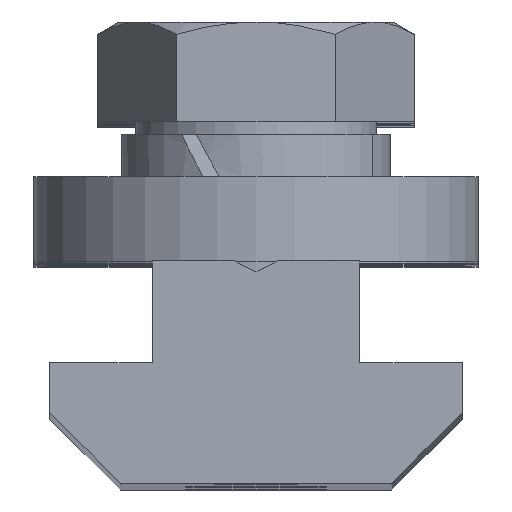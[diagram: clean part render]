
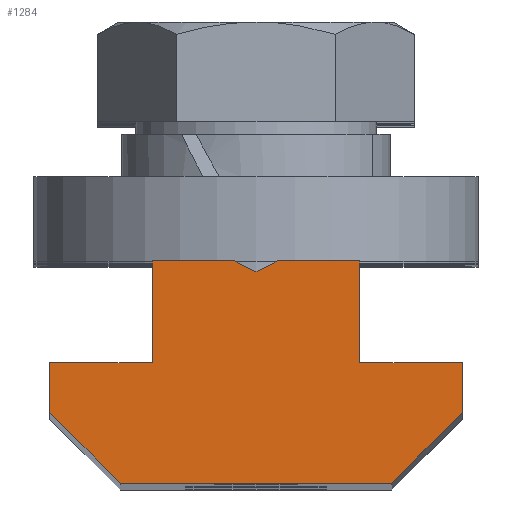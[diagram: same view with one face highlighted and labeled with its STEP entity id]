
A CAD part, top view. The second image highlights one B-rep face of the part: STEP entity #1284.
In plain terms, the highlighted planar face has unit normal (0, 0, 1) as drawn and (0, 0, -1) by its records, which use the part's own axes.
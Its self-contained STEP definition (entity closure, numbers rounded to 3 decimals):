
#312=PLANE('',#1466);
#355=FACE_OUTER_BOUND('',#415,.T.);
#415=EDGE_LOOP('',(#1034,#1035,#1036,#1037,#1038,#1039,#1040,#1041,#1042,
#1043,#1044,#1045,#1046));
#480=LINE('',#2106,#560);
#492=LINE('',#2130,#572);
#493=LINE('',#2132,#573);
#494=LINE('',#2134,#574);
#495=LINE('',#2136,#575);
#496=LINE('',#2138,#576);
#497=LINE('',#2140,#577);
#498=LINE('',#2142,#578);
#499=LINE('',#2144,#579);
#500=LINE('',#2146,#580);
#501=LINE('',#2148,#581);
#502=LINE('',#2150,#582);
#503=LINE('',#2151,#583);
#560=VECTOR('',#1681,10.);
#572=VECTOR('',#1711,10.);
#573=VECTOR('',#1712,10.);
#574=VECTOR('',#1713,10.);
#575=VECTOR('',#1714,10.);
#576=VECTOR('',#1715,10.);
#577=VECTOR('',#1716,10.);
#578=VECTOR('',#1717,10.);
#579=VECTOR('',#1718,10.);
#580=VECTOR('',#1719,10.);
#581=VECTOR('',#1720,10.);
#582=VECTOR('',#1721,10.);
#583=VECTOR('',#1722,10.);
#730=VERTEX_POINT('',#2103);
#731=VERTEX_POINT('',#2105);
#734=VERTEX_POINT('',#2129);
#735=VERTEX_POINT('',#2131);
#736=VERTEX_POINT('',#2133);
#737=VERTEX_POINT('',#2135);
#738=VERTEX_POINT('',#2137);
#739=VERTEX_POINT('',#2139);
#740=VERTEX_POINT('',#2141);
#741=VERTEX_POINT('',#2143);
#742=VERTEX_POINT('',#2145);
#743=VERTEX_POINT('',#2147);
#744=VERTEX_POINT('',#2149);
#838=EDGE_CURVE('',#731,#730,#480,.T.);
#850=EDGE_CURVE('',#730,#734,#492,.T.);
#851=EDGE_CURVE('',#734,#735,#493,.T.);
#852=EDGE_CURVE('',#735,#736,#494,.T.);
#853=EDGE_CURVE('',#736,#737,#495,.T.);
#854=EDGE_CURVE('',#737,#738,#496,.T.);
#855=EDGE_CURVE('',#738,#739,#497,.T.);
#856=EDGE_CURVE('',#739,#740,#498,.T.);
#857=EDGE_CURVE('',#740,#741,#499,.T.);
#858=EDGE_CURVE('',#741,#742,#500,.T.);
#859=EDGE_CURVE('',#742,#743,#501,.T.);
#860=EDGE_CURVE('',#743,#744,#502,.T.);
#861=EDGE_CURVE('',#744,#731,#503,.T.);
#1034=ORIENTED_EDGE('',*,*,#850,.T.);
#1035=ORIENTED_EDGE('',*,*,#851,.T.);
#1036=ORIENTED_EDGE('',*,*,#852,.T.);
#1037=ORIENTED_EDGE('',*,*,#853,.T.);
#1038=ORIENTED_EDGE('',*,*,#854,.T.);
#1039=ORIENTED_EDGE('',*,*,#855,.T.);
#1040=ORIENTED_EDGE('',*,*,#856,.T.);
#1041=ORIENTED_EDGE('',*,*,#857,.T.);
#1042=ORIENTED_EDGE('',*,*,#858,.T.);
#1043=ORIENTED_EDGE('',*,*,#859,.T.);
#1044=ORIENTED_EDGE('',*,*,#860,.T.);
#1045=ORIENTED_EDGE('',*,*,#861,.T.);
#1046=ORIENTED_EDGE('',*,*,#838,.T.);
#1284=ADVANCED_FACE('',(#355),#312,.T.);
#1466=AXIS2_PLACEMENT_3D('',#2128,#1709,#1710);
#1681=DIRECTION('',(1.,0.,0.));
#1709=DIRECTION('center_axis',(0.,0.,-1.));
#1710=DIRECTION('ref_axis',(-1.,0.,0.));
#1711=DIRECTION('',(0.,-1.,0.));
#1712=DIRECTION('',(1.,0.,0.));
#1713=DIRECTION('',(0.,-1.,0.));
#1714=DIRECTION('',(-0.707,-0.707,0.));
#1715=DIRECTION('',(-1.,0.,0.));
#1716=DIRECTION('',(-0.707,0.707,0.));
#1717=DIRECTION('',(0.,1.,0.));
#1718=DIRECTION('',(1.,0.,0.));
#1719=DIRECTION('',(0.,1.,0.));
#1720=DIRECTION('',(1.,0.,0.));
#1721=DIRECTION('',(0.894,-0.447,0.));
#1722=DIRECTION('',(0.894,0.447,0.));
#2103=CARTESIAN_POINT('',(4.9,10.5,-90.));
#2105=CARTESIAN_POINT('',(1.,10.5,-90.));
#2106=CARTESIAN_POINT('',(4.9,10.5,-90.));
#2128=CARTESIAN_POINT('Origin',(0.,5.25,-90.));
#2129=CARTESIAN_POINT('',(4.9,5.7,-90.));
#2130=CARTESIAN_POINT('',(4.9,5.7,-90.));
#2131=CARTESIAN_POINT('',(9.75,5.7,-90.));
#2132=CARTESIAN_POINT('',(9.75,5.7,-90.));
#2133=CARTESIAN_POINT('',(9.75,3.35,-90.));
#2134=CARTESIAN_POINT('',(9.75,3.35,-90.));
#2135=CARTESIAN_POINT('',(6.4,0.,-90.));
#2136=CARTESIAN_POINT('',(6.4,0.,-90.));
#2137=CARTESIAN_POINT('',(-6.4,0.,-90.));
#2138=CARTESIAN_POINT('',(-6.4,0.,-90.));
#2139=CARTESIAN_POINT('',(-9.75,3.35,-90.));
#2140=CARTESIAN_POINT('',(-9.75,3.35,-90.));
#2141=CARTESIAN_POINT('',(-9.75,5.7,-90.));
#2142=CARTESIAN_POINT('',(-9.75,5.7,-90.));
#2143=CARTESIAN_POINT('',(-4.9,5.7,-90.));
#2144=CARTESIAN_POINT('',(-4.9,5.7,-90.));
#2145=CARTESIAN_POINT('',(-4.9,10.5,-90.));
#2146=CARTESIAN_POINT('',(-4.9,10.5,-90.));
#2147=CARTESIAN_POINT('',(-1.,10.5,-90.));
#2148=CARTESIAN_POINT('',(-1.,10.5,-90.));
#2149=CARTESIAN_POINT('',(0.,10.,-90.));
#2150=CARTESIAN_POINT('',(0.,10.,-90.));
#2151=CARTESIAN_POINT('',(1.,10.5,-90.));
